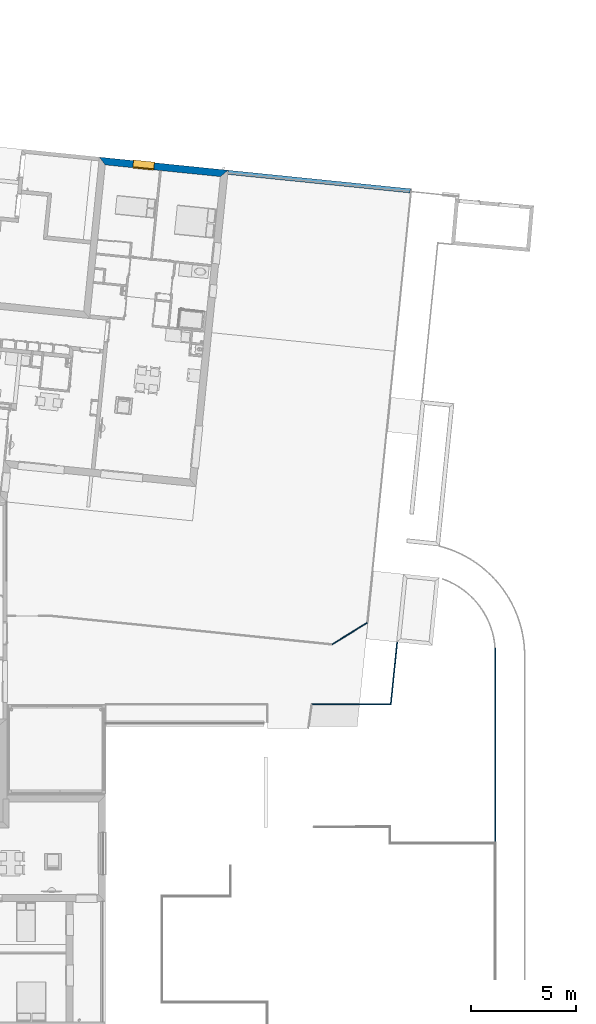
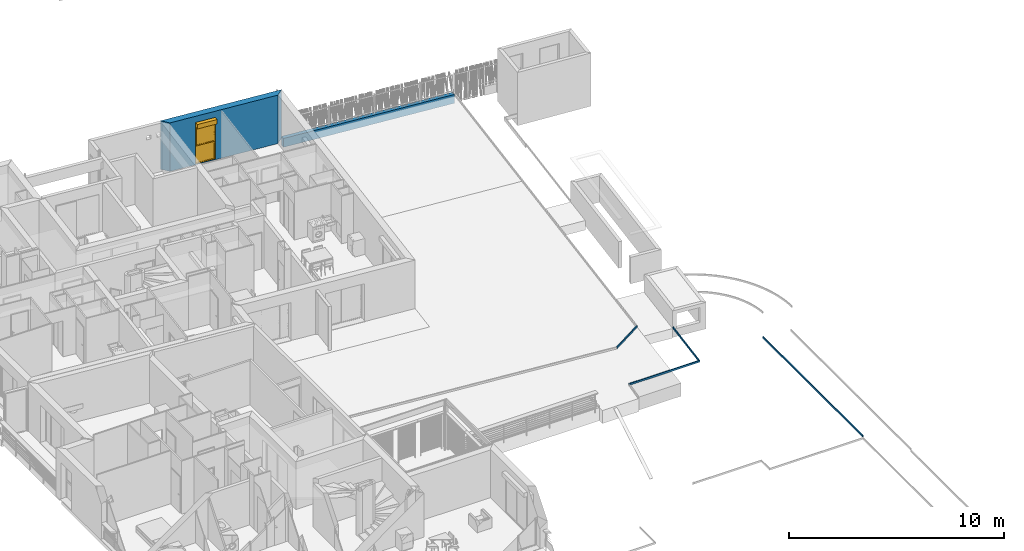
# One storey, part 81 of 171: 6 walls, 1 window, 1 opening.
"""IFC2X3 building model written with IfcOpenShell, lengths in millimetres."""

import ifcopenshell
import ifcopenshell.guid

model = None  # the IFC model being written
_history = None  # IfcOwnerHistory: only IFC2X3 demands one
_inside = {}  # id of a spatial element -> (the spatial element, [elements in it])
_under = {}  # id of a project, library or spatial element -> (it, [spatial elements below it])
_declared = {}  # id of a project -> (the project, [libraries it declares])
_typed = {}  # id of a type object -> (the type object, [elements of that type])
_made_of = {}  # id of a material, layer set ... -> (it, [elements and type objects made of it])


def new_model(schema):
    """Start an empty IFC model of exactly this schema.

    Asked for "IFC4X3", IfcOpenShell would pick the latest addendum, in which some entities
    have other attributes; the version numbers below select the first issue.
    IFC2X3 requires an IfcOwnerHistory on every rooted entity: one is made here for all.
    """
    global model, _history
    if schema == "IFC4X3":
        model = ifcopenshell.file(schema_version=(4, 3, 0, 0))
    else:
        model = ifcopenshell.file(schema=schema)
    _inside.clear()
    _under.clear()
    _declared.clear()
    _typed.clear()
    _made_of.clear()
    _history = None
    if model.schema == "IFC2X3":
        org = make("IfcOrganization", Name="unknown")
        user = make(
            "IfcPersonAndOrganization",
            ThePerson=make("IfcPerson", FamilyName="unknown"),
            TheOrganization=org,
        )
        app = make(
            "IfcApplication",
            ApplicationDeveloper=org,
            Version="unknown",
            ApplicationFullName="unknown",
            ApplicationIdentifier="unknown",
        )
        _history = make(
            "IfcOwnerHistory",
            OwningUser=user,
            OwningApplication=app,
            ChangeAction="ADDED",
            CreationDate=0,
        )
    return model


def make(cls, **values):
    """One entity of the class cls with the attributes given. An attribute that is None is left unset."""
    return model.create_entity(
        cls, **{name: value for name, value in values.items() if value is not None}
    )


def entity(cls, *values):
    """Any entity or typed value of the class cls, its attributes in the order of the schema. None: left unset."""
    e = model.create_entity(cls)
    for i, value in enumerate(values):
        if value is not None:
            e[i] = value
    return e


def rooted(cls, **values):
    """An entity with a GlobalId (a new one), such as an element, a storey or a relation."""
    return make(cls, GlobalId=ifcopenshell.guid.new(), OwnerHistory=_history, **values)


def si_unit(unit_type, name, prefix=None):
    """IfcSIUnit, for example si_unit("LENGTHUNIT", "METRE", prefix="MILLI")."""
    return make("IfcSIUnit", UnitType=unit_type, Prefix=prefix, Name=name)


def converted_unit(unit_type, name, factor, base, dimensions=None, offset=None):
    """IfcConversionBasedUnit, such as the inch: factor (a typed value) times the base unit."""
    return make(
        "IfcConversionBasedUnit"
        if offset is None
        else "IfcConversionBasedUnitWithOffset",
        ConversionOffset=offset,
        Dimensions=None
        if dimensions is None
        else entity("IfcDimensionalExponents", *dimensions),
        UnitType=unit_type,
        Name=name,
        ConversionFactor=make(
            "IfcMeasureWithUnit", ValueComponent=factor, UnitComponent=base
        ),
    )


def derived_unit(unit_type, elements):
    """IfcDerivedUnit: a product of units, each with its exponent."""
    return make(
        "IfcDerivedUnit",
        Elements=[
            make("IfcDerivedUnitElement", Unit=unit, Exponent=power)
            for unit, power in elements
        ],
        UnitType=unit_type,
    )


def money_unit(currency):
    """IfcMonetaryUnit."""
    return make("IfcMonetaryUnit", Currency=currency)


def assignment(units):
    """IfcUnitAssignment: the units of a project."""
    return None if units is None else make("IfcUnitAssignment", Units=units)


def point(xyz):
    """IfcCartesianPoint."""
    return None if xyz is None else make("IfcCartesianPoint", Coordinates=xyz)


def direction(xyz):
    """IfcDirection."""
    return None if xyz is None else make("IfcDirection", DirectionRatios=xyz)


def frame(location, z_axis=None, x_axis=None):
    """IfcAxis2Placement3D, a coordinate frame: its origin and axes. An axis left out is left unset."""
    return make(
        "IfcAxis2Placement3D",
        Location=point(location),
        Axis=direction(z_axis),
        RefDirection=direction(x_axis),
    )


def origin_with_axes():
    """The frame at (0, 0, 0) with the z axis (0, 0, 1) and the x axis (1, 0, 0) written out."""
    return frame((0.0, 0.0, 0.0), z_axis=(0.0, 0.0, 1.0), x_axis=(1.0, 0.0, 0.0))


def place(relative_to, where):
    """IfcLocalPlacement: puts the frame where relative to a parent placement (None: the world)."""
    return make(
        "IfcLocalPlacement", PlacementRelTo=relative_to, RelativePlacement=where
    )


def context(
    kind, dimensions, precision=None, world=None, true_north=None, identifier=None
):
    """IfcGeometricRepresentationContext, for example the 3D "Model" context."""
    return make(
        "IfcGeometricRepresentationContext",
        ContextIdentifier=identifier,
        ContextType=kind,
        CoordinateSpaceDimension=dimensions,
        Precision=precision,
        WorldCoordinateSystem=world,
        TrueNorth=true_north,
    )


def subcontext(parent, identifier, kind, view, scale=None):
    """IfcGeometricRepresentationSubContext, for example "Body" below "Model"."""
    return make(
        "IfcGeometricRepresentationSubContext",
        ContextIdentifier=identifier,
        ContextType=kind,
        ParentContext=parent,
        TargetScale=scale,
        TargetView=view,
    )


def project(units=None, contexts=None):
    """IfcProject with its units and contexts."""
    return rooted(
        "IfcProject",
        Name="project",
        RepresentationContexts=contexts,
        UnitsInContext=assignment(units),
    )


def spatial(cls, under=None, at=None, **own):
    """A site, building, storey or space (cls), placed at a placement, below another one or the project."""
    s = rooted(cls, ObjectPlacement=at, **own)
    if under is not None:
        _under.setdefault(under.id(), (under, []))[1].append(s)
    return s


def polyline(points):
    """IfcPolyline through the points."""
    return make("IfcPolyline", Points=[point(p) for p in points])


def outline(outer, holes=None, kind="AREA"):
    """IfcArbitraryClosedProfileDef: a profile drawn as a closed curve; with holes, ...WithVoids."""
    if holes is None:
        return make("IfcArbitraryClosedProfileDef", ProfileType=kind, OuterCurve=outer)
    return make(
        "IfcArbitraryProfileDefWithVoids",
        ProfileType=kind,
        OuterCurve=outer,
        InnerCurves=holes,
    )


def extrude(swept, where, along, depth):
    """IfcExtrudedAreaSolid: the profile swept, set in the frame where, extruded along a direction by depth."""
    return make(
        "IfcExtrudedAreaSolid",
        SweptArea=swept,
        Position=where,
        ExtrudedDirection=direction(along),
        Depth=depth,
    )


def faces_of(points, faces, orient=None, outer=None):
    """IfcFace entities. A face is a list of loops; a loop is a list of indices into points, from 0.

    orient and outer hold one flag for each loop. By default every Orientation is true, the
    first loop of a face is its IfcFaceOuterBound and the others are IfcFaceBound.
    """
    made = []
    for i, loops in enumerate(faces):
        bounds = []
        for j, loop in enumerate(loops):
            is_outer = j == 0 if outer is None else outer[i][j]
            bounds.append(
                make(
                    "IfcFaceOuterBound" if is_outer else "IfcFaceBound",
                    Bound=make("IfcPolyLoop", Polygon=[points[k] for k in loop]),
                    Orientation=True if orient is None else orient[i][j],
                )
            )
        made.append(make("IfcFace", Bounds=bounds))
    return made


def open_shell(faces, orient=None, outer=None):
    """The faces of one IfcOpenShell. surface_model builds it on its shared points."""
    return ("IfcOpenShell", faces, orient, outer)


def faceted_brep(points, faces, orient=None, outer=None, voids=None):
    """IfcFacetedBrep: a solid bounded by flat faces; with voids (closed shells), ...WithVoids."""
    shared = [point(p) for p in points]
    hull = make("IfcClosedShell", CfsFaces=faces_of(shared, faces, orient, outer))
    if voids is None:
        return make("IfcFacetedBrep", Outer=hull)
    return make(
        "IfcFacetedBrepWithVoids",
        Outer=hull,
        Voids=[
            make(cls, CfsFaces=faces_of(shared, fs, o, b)) for cls, fs, o, b in voids
        ],
    )


def surface_model(cls, points, shells):
    """IfcFaceBasedSurfaceModel or IfcShellBasedSurfaceModel (cls): surfaces that need not close."""
    shared = [point(p) for p in points]
    made = [make(c, CfsFaces=faces_of(shared, fs, o, b)) for c, fs, o, b in shells]
    if cls == "IfcFaceBasedSurfaceModel":
        return make(cls, FbsmFaces=made)
    return make(cls, SbsmBoundary=made)


def shape(context_of_items, identifier, shape_type, items):
    """IfcShapeRepresentation: the items that make up one representation, for example the "Body"."""
    return make(
        "IfcShapeRepresentation",
        ContextOfItems=context_of_items,
        RepresentationIdentifier=identifier,
        RepresentationType=shape_type,
        Items=items,
    )


def source(mapping_origin, context_of_items, identifier, shape_type, items):
    """IfcRepresentationMap: a shape defined once, which mapped items show again and again."""
    return make(
        "IfcRepresentationMap",
        MappingOrigin=mapping_origin,
        MappedRepresentation=shape(context_of_items, identifier, shape_type, items),
    )


def transform(
    local_origin,
    x_axis=None,
    y_axis=None,
    z_axis=None,
    scale=None,
    scale2=None,
    scale3=None,
    uniform=True,
):
    """IfcCartesianTransformationOperator3D, or its non-uniform kind. x_axis, y_axis, z_axis: its Axis1, 2, 3."""
    if uniform:
        return make(
            "IfcCartesianTransformationOperator3D",
            Axis1=direction(x_axis),
            Axis2=direction(y_axis),
            LocalOrigin=point(local_origin),
            Scale=scale,
            Axis3=direction(z_axis),
        )
    return make(
        "IfcCartesianTransformationOperator3DnonUniform",
        Axis1=direction(x_axis),
        Axis2=direction(y_axis),
        LocalOrigin=point(local_origin),
        Scale=scale,
        Axis3=direction(z_axis),
        Scale2=scale2,
        Scale3=scale3,
    )


def mapped(mapping_source, mapping_target):
    """IfcMappedItem: shows the shape of a source again, moved by a transform."""
    return make(
        "IfcMappedItem", MappingSource=mapping_source, MappingTarget=mapping_target
    )


def material(Name=None, Category=None):
    """IfcMaterial."""
    return make("IfcMaterial", Name=Name, Category=Category)


def layer(
    of_material, thickness, ventilated=None, Name=None, Category=None, Priority=None
):
    """IfcMaterialLayer: one layer of a wall or slab, of a material (None: an air gap)."""
    return make(
        "IfcMaterialLayer",
        Material=of_material,
        LayerThickness=thickness,
        IsVentilated=ventilated,
        Name=Name,
        Category=Category,
        Priority=Priority,
    )


def layer_set(layers, Name=None):
    """IfcMaterialLayerSet."""
    return make("IfcMaterialLayerSet", MaterialLayers=layers, LayerSetName=Name)


def layer_usage(for_layer_set, set_direction, sense, offset, extent=None):
    """IfcMaterialLayerSetUsage: how a layer set lies in its element."""
    return make(
        "IfcMaterialLayerSetUsage",
        ForLayerSet=for_layer_set,
        LayerSetDirection=set_direction,
        DirectionSense=sense,
        OffsetFromReferenceLine=offset,
        ReferenceExtent=extent,
    )


def made_of(thing, what):
    """Note that an element or type object is made of a material, layer set ...; save() writes the relation."""
    if what is not None:
        _made_of.setdefault(what.id(), (what, []))[1].append(thing)
    return thing


def type_object(cls, material=None, **own):
    """A type object (cls), such as IfcWallType, which elements share."""
    return made_of(rooted(cls, **own), material)


def element(
    cls,
    number,
    at=None,
    inside=None,
    cuts=None,
    type_object=None,
    material=None,
    context=None,
    identifier="Body",
    shape_type=None,
    held_by="IfcProductDefinitionShape",
    body=None,
    shapes=None,
    **own,
):
    """One element of the class cls, such as IfcWall. Its Tag is "e" and its number.

    at: its placement. inside: the storey or other place that contains it. cuts: it is an
    opening in that element (IfcRelVoidsElement). A single representation is given by context,
    identifier, shape_type and body (its items); several are given by shapes. held_by: the class
    of the entity that holds the representations. save() writes the other relations.
    """
    e = rooted(cls, Tag="e%d" % number, ObjectPlacement=at, **own)
    if body is not None:
        shapes = [shape(context, identifier, shape_type, body)]
    if shapes is not None:
        e.Representation = make(held_by, Representations=shapes)
    if inside is not None:
        _inside.setdefault(inside.id(), (inside, []))[1].append(e)
    if cuts is not None:
        rooted(
            "IfcRelVoidsElement", RelatingBuildingElement=cuts, RelatedOpeningElement=e
        )
    if type_object is not None:
        _typed.setdefault(type_object.id(), (type_object, []))[1].append(e)
    return made_of(e, material)


def fill(opening, filler):
    """IfcRelFillsElement: the door or window that sits in an opening."""
    return rooted(
        "IfcRelFillsElement",
        RelatingOpeningElement=opening,
        RelatedBuildingElement=filler,
    )


def aggregate(whole, parts):
    """IfcRelAggregates: a whole, such as a stair, and the parts it consists of."""
    return rooted("IfcRelAggregates", RelatingObject=whole, RelatedObjects=parts)


def save(model, path):
    """Write the relations noted so far, then the file.

    IfcRelAggregates (storeys below a building ...), IfcRelContainedInSpatialStructure (elements
    in a storey), IfcRelDefinesByType, IfcRelAssociatesMaterial and IfcRelDeclares: one each for
    every whole, place, type object, material and project.
    """
    for whole, parts in _under.values():
        aggregate(whole, parts)
    for where, things in _inside.values():
        rooted(
            "IfcRelContainedInSpatialStructure",
            RelatedElements=things,
            RelatingStructure=where,
        )
    for kind, things in _typed.values():
        rooted("IfcRelDefinesByType", RelatedObjects=things, RelatingType=kind)
    for what, things in _made_of.values():
        rooted("IfcRelAssociatesMaterial", RelatedObjects=things, RelatingMaterial=what)
    for by, libraries in _declared.values():
        rooted("IfcRelDeclares", RelatingContext=by, RelatedDefinitions=libraries)
    model.write(path)


model = new_model("IFC2X3")

# Units and contexts
model_context = context("Model", 3, precision=0.01, world=origin_with_axes(), true_north=direction((0.0, 1.0)))
body_context = subcontext(model_context, "Body", "Model", "MODEL_VIEW")
ifc_project = project(units=[si_unit("LENGTHUNIT", "METRE", prefix="MILLI"), si_unit("AREAUNIT", "SQUARE_METRE"), si_unit("VOLUMEUNIT", "CUBIC_METRE"), converted_unit("PLANEANGLEUNIT", "DEGREE", entity("IfcPlaneAngleMeasure", 0.0174532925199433), si_unit("PLANEANGLEUNIT", "RADIAN"), dimensions=[0, 0, 0, 0, 0, 0, 0]), money_unit("USD"), converted_unit("TIMEUNIT", "Year", entity("IfcTimeMeasure", 31557600.0), si_unit("TIMEUNIT", "SECOND"), dimensions=[0, 0, 1, 0, 0, 0, 0]), si_unit("MASSUNIT", "GRAM", prefix="KILO"), si_unit("THERMODYNAMICTEMPERATUREUNIT", "DEGREE_CELSIUS"), si_unit("LUMINOUSINTENSITYUNIT", "LUMEN"), si_unit("ENERGYUNIT", "JOULE", prefix="MEGA"), derived_unit("THERMALCONDUCTANCEUNIT", [(si_unit("POWERUNIT", "WATT"), 1), (si_unit("LENGTHUNIT", "METRE"), -1), (si_unit("THERMODYNAMICTEMPERATUREUNIT", "KELVIN"), -1)]), derived_unit("SPECIFICHEATCAPACITYUNIT", [(si_unit("ENERGYUNIT", "JOULE"), 1), (si_unit("MASSUNIT", "GRAM", prefix="KILO"), -1), (si_unit("THERMODYNAMICTEMPERATUREUNIT", "KELVIN"), -1)]), derived_unit("MASSDENSITYUNIT", [(si_unit("MASSUNIT", "GRAM", prefix="KILO"), 1), (si_unit("VOLUMEUNIT", "CUBIC_METRE"), -1)])], contexts=[model_context])

# Site, building, storey
site_placement = place(None, origin_with_axes())
site = spatial("IfcSite", under=ifc_project, at=site_placement, Name="Site", CompositionType="ELEMENT")
building_placement = place(site_placement, origin_with_axes())
building = spatial("IfcBuilding", under=site, at=building_placement, Name="Bâtiment", CompositionType="ELEMENT")
storey_placement = place(building_placement, frame((0.0, 0.0, 3000.0), z_axis=(0.0, 0.0, 1.0), x_axis=(1.0, 0.0, 0.0)))
storey = spatial("IfcBuildingStorey", under=building, at=storey_placement, Name="rdc", CompositionType="ELEMENT", Elevation=3000.0)

# Walls
ifc_material_1 = material(Name="Hachure solide 268963992")
ifc_layer_1 = layer(ifc_material_1, 50.0, ventilated="UNKNOWN")
ifc_layer_set_1 = layer_set([ifc_layer_1], Name="Cloison 50")
ifc_layer_usage_1 = layer_usage(ifc_layer_set_1, "AXIS2", "NEGATIVE", 50.0)
wall_type_1 = type_object("IfcWallType", Name="Cloison 50 50", PredefinedType="NOTDEFINED")
wall_1_placement = place(storey_placement, frame((2245134.025982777, -628810.6020336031, 0.0), z_axis=(0.0, 0.0, 1.0), x_axis=(0.851293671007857, 0.5246895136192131, 0.0)))
element("IfcWallStandardCase", 1, at=wall_1_placement, inside=storey, type_object=wall_type_1, material=ifc_layer_usage_1, Name="Mur-151", context=body_context, shape_type="SweptSolid", body=[
    extrude(outline(polyline([(-1.13686837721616e-10, 0.0), (1983.698173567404, 0.0), (1959.013799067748, 49.99999999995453), (16.94819225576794, 49.99999999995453), (-1.13686837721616e-10, 0.0)])), origin_with_axes(), (0.0, 0.0, 1.0), 100.0),
])
ifc_layer_usage_2 = layer_usage(ifc_layer_set_1, "AXIS2", "NEGATIVE", 0.0)
wall_2_placement = place(storey_placement, frame((2252858.967028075, -638224.8035284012, -2000.0), z_axis=(0.0, 0.0, 1.0), x_axis=(-0.001166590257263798, 0.9999993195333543, 0.0)))
element("IfcWallStandardCase", 2, at=wall_2_placement, inside=storey, type_object=wall_type_1, material=ifc_layer_usage_2, Name="Mur-162", context=body_context, shape_type="SweptSolid", body=[
    extrude(outline(polyline([(0.0, -50.00000000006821), (9269.444917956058, -49.99999999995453), (9269.444917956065, -1.13686837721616e-10), (0.0, 0.0), (0.0, -50.00000000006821)])), origin_with_axes(), (0.0, 0.0, 1.0), 100.0),
])
ifc_layer_usage_3 = layer_usage(ifc_layer_set_1, "AXIS2", "POSITIVE", 0.0)
wall_3_placement = place(storey_placement, frame((2248194.197924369, -628673.1309445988, 0.0), z_axis=(0.0, 0.0, 1.0), x_axis=(-0.1017601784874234, -0.9948089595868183, 0.0)))
element("IfcWallStandardCase", 3, at=wall_3_placement, inside=storey, type_object=wall_type_1, material=ifc_layer_usage_3, Name="Mur-164", context=body_context, shape_type="SweptSolid", body=[
    extrude(outline(polyline([(0.0, 0.0), (2950.168461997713, 1.13686837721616e-10), (2995.315718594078, 50.00000000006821), (-0.03301811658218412, 50.00000000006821), (0.0, 0.0)])), origin_with_axes(), (0.0, 0.0, 1.0), 100.0),
])
ifc_layer_usage_4 = layer_usage(ifc_layer_set_1, "AXIS2", "NEGATIVE", 0.0)
wall_4_placement = place(storey_placement, frame((2247888.873706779, -631657.9848604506, 0.0), z_axis=(0.0, 0.0, 1.0), x_axis=(-0.9999999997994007, 2.002994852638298e-05, 0.0)))
element("IfcWallStandardCase", 4, at=wall_4_placement, inside=storey, type_object=wall_type_1, material=ifc_layer_usage_4, Name="Mur-165", context=body_context, shape_type="SweptSolid", body=[
    extrude(outline(polyline([(-5.113546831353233, -50.00000000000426), (3760.140435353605, -50.00000000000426), (3716.600376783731, 0.0), (-50.26080342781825, 0.0), (-5.113546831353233, -50.00000000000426)])), origin_with_axes(), (0.0, 0.0, 1.0), 100.0),
])

# Wall, opening, window
ifc_material_2 = material(Name="Parpaing 312445824")
ifc_layer_2 = layer(ifc_material_2, 180.0, ventilated="UNKNOWN")
ifc_material_3 = material(Name="Isolant styromousse 301821074")
ifc_layer_3 = layer(ifc_material_3, 160.0, ventilated="UNKNOWN")
ifc_layer_set_2 = layer_set([ifc_layer_2, ifc_layer_3], Name="isol int 18+16 0018356637")
ifc_layer_usage_5 = layer_usage(ifc_layer_set_2, "AXIS2", "POSITIVE", 0.0)
wall_type_2 = type_object("IfcWallType", Name="isol int 18+16 0018356637 340", PredefinedType="NOTDEFINED")
wall_5_placement = place(storey_placement, frame((2240182.946874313, -606236.1516955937, 0.0), z_axis=(0.0, 0.0, 1.0), x_axis=(-0.9948759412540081, 0.1011032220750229, 0.0)))
wall_5 = element("IfcWallStandardCase", 5, at=wall_5_placement, inside=storey, type_object=wall_type_2, material=ifc_layer_usage_5, Name="Mur-142", context=body_context, shape_type="SweptSolid", body=[
    extrude(outline(polyline([(1.13686837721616e-10, 0.0), (6161.908783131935, 0.0), (5841.81964350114, 340.0000000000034), (339.9999999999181, 339.9999999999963), (1.13686837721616e-10, 0.0)])), origin_with_axes(), (0.0, 0.0, 1.0), 2750.0),
])
opening_placement = place(wall_5_placement, frame((4027.21093098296, 0.0, 49.99999999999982), z_axis=(0.0, 0.0, 1.0), x_axis=(1.0, 0.0, 0.0)))
opening = element("IfcOpeningElement", 6, at=opening_placement, cuts=wall_5, Name="Fen-133", context=body_context, shape_type="Brep", body=[
    faceted_brep([(500.0, 279.999999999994, 2100.0), (-500.0, 279.999999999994, 2100.0), (-499.9999999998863, -588.6093473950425, 2100.0), (500.0000000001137, -588.6093473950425, 2100.0), (500.0, 279.999999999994, 2350.0), (-500.0, 279.999999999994, 2350.0), (-500.0000000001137, 289.9999999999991, 2100.0), (-500.0, 290.0000000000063, 0.0), (-499.9999999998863, -588.6093473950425, 0.0), (500.0000000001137, -588.6093473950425, 0.0), (499.9999999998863, 289.999999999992, 2100.0), (499.9999999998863, 289.999999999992, 0.0), (500.0, 530.0000000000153, 2100.0), (500.0, 530.0000000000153, 2350.0), (-500.0, 530.0000000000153, 2350.0), (-500.0, 530.0000000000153, 2100.0), (-499.9999999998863, 928.6093473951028, 2100.0), (-499.9999999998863, 928.6093473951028, 0.0), (499.9999999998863, 928.6093473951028, 0.0), (499.9999999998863, 928.6093473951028, 2100.0)], [[[0, 1, 2, 3]], [[1, 0, 4, 5]], [[1, 6, 7, 8, 2]], [[2, 8, 9, 3]], [[10, 0, 3, 9, 11]], [[0, 10, 12, 13, 4]], [[14, 5, 4, 13]], [[6, 1, 5, 14, 15]], [[6, 15, 16, 17, 7]], [[11, 9, 8, 7, 17, 18]], [[12, 10, 11, 18, 19]], [[12, 15, 14, 13]], [[15, 12, 19, 16]], [[19, 18, 17, 16]]]),
])
window_style = type_object("IfcWindowStyle", Name="Fenêtre 27", ConstructionType="NOTDEFINED", OperationType="DOUBLE_PANEL_HORIZONTAL", ParameterTakesPrecedence=False, Sizeable=False)
shared_shape = source(origin_with_axes(), body_context, "Body", "SurfaceModel", [
    surface_model("IfcShellBasedSurfaceModel", [(-500.0, -51.00000000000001, 40.00000000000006), (500.0, -51.00000000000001, 40.0), (500.0, -51.00000000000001, 50.0), (-500.0, -51.00000000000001, 50.00000000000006), (-530.0, -369.9999999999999, 28.96551724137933), (530.0, -369.9999999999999, 28.96551724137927), (530.0, -339.9999999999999, 30.00324289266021), (500.0, -339.9999999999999, 30.00324289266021), (-500.0, -339.9999999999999, 30.00324289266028), (-530.0, -339.9999999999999, 30.00324289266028), (-530.0, -369.9999999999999, 8.96551724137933), (530.0, -369.9999999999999, 8.965517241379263), (-530.0, -359.9999999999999, 18.96551724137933), (530.0, -359.9999999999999, 18.96551724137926)], [open_shell([[[0, 1, 2, 3]], [[4, 5, 6, 7, 1, 0, 8, 9]], [[10, 11, 5, 4]], [[12, 13, 11, 10]]])]),
    faceted_brep([(500.0, -59.99999999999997, 2350.0), (500.0, 190.0, 2350.0), (497.0, 190.0, 2350.0), (497.0, -59.99999999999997, 2350.0), (500.0, -59.99999999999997, 2100.0), (500.0, 190.0, 2100.0), (497.0, 190.0, 2100.0), (497.0, -59.99999999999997, 2100.0)], [[[0, 1, 2, 3]], [[0, 4, 5, 1]], [[1, 5, 6, 2]], [[3, 2, 6, 7]], [[4, 0, 3, 7]], [[5, 4, 7, 6]]]),
    faceted_brep([(-497.0, -59.99999999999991, 2350.0), (-497.0, 190.0000000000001, 2350.0), (-500.0, 190.0000000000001, 2350.0), (-500.0, -59.99999999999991, 2350.0), (-497.0, -59.99999999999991, 2100.0), (-497.0, 190.0000000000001, 2100.0), (-500.0, 190.0000000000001, 2100.0), (-500.0, -59.99999999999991, 2100.0)], [[[0, 1, 2, 3]], [[0, 4, 5, 1]], [[1, 5, 6, 2]], [[3, 2, 6, 7]], [[4, 0, 3, 7]], [[5, 4, 7, 6]]]),
    faceted_brep([(497.0, -60.0, 2100.0), (497.0, -60.0, 2350.0), (-497.0, -59.99999999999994, 2350.0), (-497.0, -59.99999999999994, 2100.0), (497.0, -56.99999999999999, 2100.0), (497.0, -56.99999999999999, 2347.0), (497.0, 187.0, 2347.0), (497.0, 187.0, 2103.0), (497.0, -37.99999999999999, 2103.0), (497.0, -37.99999999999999, 2100.0), (497.0, 190.0, 2100.0), (497.0, 190.0, 2350.0), (-497.0, 190.0000000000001, 2350.0), (-497.0, 190.0000000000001, 2100.0), (-497.0, -37.99999999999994, 2100.0), (-497.0, -37.99999999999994, 2103.0), (-497.0, 187.0000000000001, 2103.0), (-497.0, 187.0000000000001, 2347.0), (-497.0, -56.99999999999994, 2347.0), (-497.0, -56.99999999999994, 2100.0)], [[[0, 1, 2, 3]], [[0, 4, 5, 6, 7, 8, 9, 10, 11, 1]], [[1, 11, 12, 2]], [[3, 2, 12, 13, 14, 15, 16, 17, 18, 19]], [[4, 0, 3, 19]], [[5, 4, 19, 18]], [[6, 5, 18, 17]], [[7, 6, 17, 16]], [[8, 7, 16, 15]], [[9, 8, 15, 14]], [[10, 9, 14, 13]], [[11, 10, 13, 12]]]),
    faceted_brep([(494.0, -40.37442957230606, 2206.419644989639), (494.0, -35.54711042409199, 2188.403844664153), (494.0, -27.66471820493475, 2171.5), (494.0, -16.9667554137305, 2156.22172576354), (494.0, -3.778274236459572, 2143.03324458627), (494.0, 11.50000000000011, 2132.335281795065), (494.0, 28.40384466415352, 2124.452889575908), (494.0, 46.4196449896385, 2119.625570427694), (494.0, 65.00000000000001, 2118.0), (494.0, 83.58035501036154, 2119.625570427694), (494.0, 101.5961553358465, 2124.452889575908), (494.0, 118.4999999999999, 2132.335281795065), (494.0, 133.7782742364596, 2143.03324458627), (494.0, 146.9667554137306, 2156.22172576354), (494.0, 157.6647182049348, 2171.5), (494.0, 165.5471104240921, 2188.403844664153), (494.0, 170.3744295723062, 2206.419644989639), (494.0, 171.9999999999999, 2225.0), (494.0, 170.3744295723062, 2243.580355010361), (494.0, 165.5471104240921, 2261.596155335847), (494.0, 157.6647182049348, 2278.5), (494.0, 146.9667554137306, 2293.77827423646), (494.0, 133.7782742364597, 2306.966755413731), (494.0, 118.5, 2317.664718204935), (494.0, 101.5961553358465, 2325.547110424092), (494.0, 83.58035501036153, 2330.374429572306), (494.0, 64.99999999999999, 2332.0), (494.0, 46.41964498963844, 2330.374429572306), (494.0, 28.40384466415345, 2325.547110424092), (494.0, 11.5, 2317.664718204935), (494.0, -3.778274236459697, 2306.966755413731), (494.0, -16.96675541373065, 2293.77827423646), (494.0, -27.66471820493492, 2278.5), (494.0, -35.54711042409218, 2261.596155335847), (494.0, -40.37442957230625, 2243.580355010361), (494.0, -41.99999999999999, 2225.0), (-494.0, -40.374429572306, 2206.419644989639), (-494.0, -35.54711042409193, 2188.403844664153), (-494.0, -27.6647182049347, 2171.5), (-494.0, -16.96675541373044, 2156.22172576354), (-494.0, -3.778274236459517, 2143.03324458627), (-494.0, 11.50000000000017, 2132.335281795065), (-494.0, 28.40384466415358, 2124.452889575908), (-494.0, 46.41964498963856, 2119.625570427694), (-494.0, 65.00000000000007, 2118.0), (-494.0, 83.5803550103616, 2119.625570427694), (-494.0, 101.5961553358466, 2124.452889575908), (-494.0, 118.5, 2132.335281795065), (-494.0, 133.7782742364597, 2143.03324458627), (-494.0, 146.9667554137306, 2156.22172576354), (-494.0, 157.6647182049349, 2171.5), (-494.0, 165.5471104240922, 2188.403844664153), (-494.0, 170.3744295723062, 2206.419644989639), (-494.0, 172.0, 2225.0), (-494.0, 170.3744295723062, 2243.580355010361), (-494.0, 165.5471104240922, 2261.596155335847), (-494.0, 157.6647182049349, 2278.5), (-494.0, 146.9667554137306, 2293.77827423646), (-494.0, 133.7782742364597, 2306.966755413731), (-494.0, 118.5, 2317.664718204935), (-494.0, 101.5961553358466, 2325.547110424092), (-494.0, 83.58035501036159, 2330.374429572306), (-494.0, 65.00000000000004, 2332.0), (-494.0, 46.41964498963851, 2330.374429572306), (-494.0, 28.40384466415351, 2325.547110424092), (-494.0, 11.50000000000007, 2317.664718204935), (-494.0, -3.778274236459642, 2306.966755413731), (-494.0, -16.96675541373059, 2293.77827423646), (-494.0, -27.66471820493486, 2278.5), (-494.0, -35.54711042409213, 2261.596155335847), (-494.0, -40.37442957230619, 2243.580355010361), (-494.0, -41.99999999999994, 2225.0)], [[[0, 1, 2, 3, 4, 5, 6, 7, 8, 9, 10, 11, 12, 13, 14, 15, 16, 17, 18, 19, 20, 21, 22, 23, 24, 25, 26, 27, 28, 29, 30, 31, 32, 33, 34, 35]], [[1, 0, 36, 37]], [[2, 1, 37, 38]], [[3, 2, 38, 39]], [[4, 3, 39, 40]], [[5, 4, 40, 41]], [[6, 5, 41, 42]], [[7, 6, 42, 43]], [[8, 7, 43, 44]], [[9, 8, 44, 45]], [[10, 9, 45, 46]], [[11, 10, 46, 47]], [[12, 11, 47, 48]], [[13, 12, 48, 49]], [[14, 13, 49, 50]], [[15, 14, 50, 51]], [[16, 15, 51, 52]], [[17, 16, 52, 53]], [[18, 17, 53, 54]], [[19, 18, 54, 55]], [[20, 19, 55, 56]], [[21, 20, 56, 57]], [[22, 21, 57, 58]], [[23, 22, 58, 59]], [[24, 23, 59, 60]], [[25, 24, 60, 61]], [[26, 25, 61, 62]], [[27, 26, 62, 63]], [[28, 27, 63, 64]], [[29, 28, 64, 65]], [[30, 29, 65, 66]], [[31, 30, 66, 67]], [[32, 31, 67, 68]], [[33, 32, 68, 69]], [[34, 33, 69, 70]], [[35, 34, 70, 71]], [[0, 35, 71, 36]], [[36, 71, 70, 69, 68, 67, 66, 65, 64, 63, 62, 61, 60, 59, 58, 57, 56, 55, 54, 53, 52, 51, 50, 49, 48, 47, 46, 45, 44, 43, 42, 41, 40, 39, 38, 37]]]),
    faceted_brep([(-500.0, -34.99999999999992, 30.0), (-500.0, -59.99999999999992, 30.0), (-500.0, -59.99999999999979, 2100.0), (-500.0, -34.99999999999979, 2100.0), (-475.0, -34.99999999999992, 30.0), (-475.0, -37.99999999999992, 30.0), (-497.0, -37.99999999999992, 30.0), (-497.0, -56.99999999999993, 30.0), (-475.0, -56.99999999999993, 30.0), (-475.0, -59.99999999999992, 30.0), (-475.0, -59.99999999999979, 2100.0), (-475.0, -56.99999999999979, 2100.0), (-497.0, -56.99999999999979, 2100.0), (-497.0, -37.99999999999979, 2100.0), (-475.0, -37.99999999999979, 2100.0), (-475.0, -34.99999999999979, 2100.0)], [[[0, 1, 2, 3]], [[0, 4, 5, 6, 7, 8, 9, 1]], [[1, 9, 10, 2]], [[3, 2, 10, 11, 12, 13, 14, 15]], [[4, 0, 3, 15]], [[5, 4, 15, 14]], [[6, 5, 14, 13]], [[7, 6, 13, 12]], [[8, 7, 12, 11]], [[9, 8, 11, 10]]]),
    faceted_brep([(500.0, -34.99999999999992, 30.0), (500.0, -34.99999999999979, 2100.0), (500.0, -59.99999999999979, 2100.0), (500.0, -59.99999999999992, 30.0), (475.0, -34.99999999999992, 30.0), (475.0, -34.99999999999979, 2100.0), (475.0, -37.99999999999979, 2100.0), (497.0, -37.99999999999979, 2100.0), (497.0, -56.99999999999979, 2100.0), (475.0, -56.99999999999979, 2100.0), (475.0, -59.99999999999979, 2100.0), (475.0, -59.99999999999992, 30.0), (475.0, -56.99999999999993, 30.0), (497.0, -56.99999999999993, 30.0), (497.0, -37.99999999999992, 30.0), (475.0, -37.99999999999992, 30.0)], [[[0, 1, 2, 3]], [[4, 5, 1, 0]], [[1, 5, 6, 7, 8, 9, 10, 2]], [[3, 2, 10, 11]], [[0, 3, 11, 12, 13, 14, 15, 4]], [[15, 6, 5, 4]], [[14, 7, 6, 15]], [[13, 8, 7, 14]], [[12, 9, 8, 13]], [[11, 10, 9, 12]]]),
    faceted_brep([(-497.0, -46.66666666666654, 2225.0), (497.0, -46.6666666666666, 2225.0), (497.0, -46.6666666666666, 2216.666666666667), (-497.0, -46.66666666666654, 2216.666666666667), (-497.0, -51.66666666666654, 2225.0), (497.0, -51.6666666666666, 2225.0), (497.0, -51.6666666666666, 2216.666666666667), (497.0, -49.99999999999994, 2200.0), (497.0, -44.99999999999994, 2200.0), (-497.0, -44.99999999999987, 2200.0), (-497.0, -49.99999999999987, 2200.0), (-497.0, -51.66666666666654, 2216.666666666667)], [[[0, 1, 2, 3]], [[1, 0, 4, 5]], [[1, 5, 6, 7, 8, 2]], [[2, 8, 9, 3]], [[4, 0, 3, 9, 10, 11]], [[6, 5, 4, 11]], [[7, 6, 11, 10]], [[8, 7, 10, 9]]]),
    faceted_brep([(497.0, -44.99999999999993, 2200.0), (497.0, -46.6666666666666, 2183.333333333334), (-497.0, -46.66666666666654, 2183.333333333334), (-497.0, -44.99999999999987, 2200.0), (497.0, -49.99999999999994, 2200.0), (497.0, -51.6666666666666, 2183.333333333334), (497.0, -51.6666666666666, 2166.666666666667), (497.0, -49.99999999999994, 2150.000000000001), (497.0, -44.99999999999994, 2150.000000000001), (497.0, -46.6666666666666, 2166.666666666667), (-497.0, -46.66666666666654, 2166.666666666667), (-497.0, -44.99999999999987, 2150.000000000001), (-497.0, -49.99999999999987, 2150.000000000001), (-497.0, -51.66666666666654, 2166.666666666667), (-497.0, -51.66666666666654, 2183.333333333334), (-497.0, -49.99999999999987, 2200.0)], [[[0, 1, 2, 3]], [[0, 4, 5, 6, 7, 8, 9, 1]], [[1, 9, 10, 2]], [[3, 2, 10, 11, 12, 13, 14, 15]], [[4, 0, 3, 15]], [[5, 4, 15, 14]], [[6, 5, 14, 13]], [[7, 6, 13, 12]], [[8, 7, 12, 11]], [[9, 8, 11, 10]]]),
    faceted_brep([(497.0, -44.99999999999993, 2150.000000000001), (497.0, -46.6666666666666, 2133.333333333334), (-497.0, -46.66666666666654, 2133.333333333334), (-497.0, -44.99999999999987, 2150.000000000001), (497.0, -49.99999999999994, 2150.000000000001), (497.0, -51.6666666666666, 2133.333333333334), (497.0, -51.6666666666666, 2116.666666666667), (497.0, -49.99999999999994, 2100.000000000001), (497.0, -44.99999999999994, 2100.000000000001), (497.0, -46.6666666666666, 2116.666666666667), (-497.0, -46.66666666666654, 2116.666666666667), (-497.0, -44.99999999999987, 2100.000000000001), (-497.0, -49.99999999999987, 2100.000000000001), (-497.0, -51.66666666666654, 2116.666666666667), (-497.0, -51.66666666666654, 2133.333333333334), (-497.0, -49.99999999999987, 2150.000000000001)], [[[0, 1, 2, 3]], [[0, 4, 5, 6, 7, 8, 9, 1]], [[1, 9, 10, 2]], [[3, 2, 10, 11, 12, 13, 14, 15]], [[4, 0, 3, 15]], [[5, 4, 15, 14]], [[6, 5, 14, 13]], [[7, 6, 13, 12]], [[8, 7, 12, 11]], [[9, 8, 11, 10]]]),
    faceted_brep([(475.0000000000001, 0.0, 2050.0), (475.0000000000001, -25.00000000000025, 2050.0), (450.0, -25.00000000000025, 2050.0), (450.0, -50.00000000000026, 2050.0), (500.0, -50.00000000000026, 2050.0), (500.0, 0.0, 2050.0), (475.0000000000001, 0.0, 1025.0), (475.0000000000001, -25.00000000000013, 1025.0), (450.0, -25.00000000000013, 1050.0), (450.0, -25.00000000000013, 1025.0), (450.0, -50.00000000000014, 1050.0), (450.0, -50.00000000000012, 950.0), (450.0, -50.00000000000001, 50.00000000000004), (500.0, -50.00000000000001, 50.00000000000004), (500.0, 0.0, 50.00000000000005), (450.0, 0.0, 50.00000000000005), (450.0, 0.0, 950.0), (450.0, 0.0, 1025.0)], [[[0, 1, 2, 3, 4, 5]], [[1, 0, 6, 7]], [[8, 2, 1, 7, 9]], [[2, 8, 10, 3]], [[10, 11, 12, 13, 4, 3]], [[5, 4, 13, 14]], [[6, 0, 5, 14, 15, 16, 17]], [[6, 17, 9, 7]], [[9, 17, 16, 11, 10, 8]], [[15, 12, 11, 16]], [[14, 13, 12, 15]]]),
    faceted_brep([(-450.0, -25.00000000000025, 2050.0), (-475.0000000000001, -25.00000000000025, 2050.0), (-475.0000000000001, 0.0, 2050.0), (-500.0, 0.0, 2050.0), (-500.0, -50.00000000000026, 2050.0), (-450.0, -50.00000000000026, 2050.0), (-450.0, -25.00000000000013, 1050.0), (-450.0, -25.00000000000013, 1025.0), (-475.0000000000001, -25.00000000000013, 1025.0), (-475.0000000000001, 0.0, 1025.0), (-450.0, 0.0, 1025.0), (-450.0, 0.0, 950.0), (-450.0, 0.0, 50.00000000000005), (-500.0, 0.0, 50.00000000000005), (-500.0, -50.00000000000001, 50.00000000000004), (-450.0, -50.00000000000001, 50.00000000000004), (-450.0, -50.00000000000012, 950.0), (-450.0, -50.00000000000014, 1050.0)], [[[0, 1, 2, 3, 4, 5]], [[1, 0, 6, 7, 8]], [[9, 2, 1, 8]], [[9, 10, 11, 12, 13, 3, 2]], [[13, 14, 4, 3]], [[14, 15, 16, 17, 5, 4]], [[6, 0, 5, 17]], [[7, 6, 17, 16, 11, 10]], [[10, 9, 8, 7]], [[11, 16, 15, 12]], [[12, 15, 14, 13]]]),
    faceted_brep([(450.0, -25.00000000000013, 1050.0), (-450.0, -25.00000000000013, 1050.0), (-450.0, -50.00000000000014, 1050.0), (450.0, -50.00000000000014, 1050.0), (-450.0, -25.00000000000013, 1025.0), (450.0, -25.00000000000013, 1025.0), (-450.0, 0.0, 1025.0), (-450.0, 0.0, 950.0), (-450.0, -50.00000000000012, 950.0), (450.0, -50.00000000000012, 950.0), (450.0, 0.0, 950.0), (450.0, 0.0, 1025.0)], [[[0, 1, 2, 3]], [[4, 1, 0, 5]], [[4, 6, 7, 8, 2, 1]], [[8, 9, 3, 2]], [[5, 0, 3, 9, 10, 11]], [[11, 6, 4, 5]], [[6, 11, 10, 7]], [[10, 9, 8, 7]]]),
    faceted_brep([(475.0000000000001, 0.0, 2050.0), (475.0000000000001, 0.0, 2075.0), (-475.0000000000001, 0.0, 2075.0), (-475.0000000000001, 0.0, 2050.0), (-500.0, 0.0, 2050.0), (-500.0, 0.0, 2100.0), (500.0, 0.0, 2100.0), (500.0, 0.0, 2050.0), (475.0000000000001, -25.00000000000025, 2050.0), (475.0000000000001, -25.00000000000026, 2075.0), (-475.0000000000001, -25.00000000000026, 2075.0), (-475.0000000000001, -25.00000000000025, 2050.0), (-450.0, -25.00000000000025, 2050.0), (-450.0, -50.00000000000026, 2050.0), (-500.0, -50.00000000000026, 2050.0), (-500.0, -50.00000000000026, 2100.0), (500.0, -50.00000000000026, 2100.0), (500.0, -50.00000000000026, 2050.0), (450.0, -50.00000000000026, 2050.0), (450.0, -25.00000000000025, 2050.0)], [[[0, 1, 2, 3, 4, 5, 6, 7]], [[1, 0, 8, 9]], [[2, 1, 9, 10]], [[3, 2, 10, 11]], [[11, 12, 13, 14, 4, 3]], [[4, 14, 15, 5]], [[5, 15, 16, 6]], [[6, 16, 17, 7]], [[8, 0, 7, 17, 18, 19]], [[12, 11, 10, 9, 8, 19]], [[12, 19, 18, 13]], [[14, 13, 18, 17, 16, 15]]]),
    faceted_brep([(450.0, -50.00000000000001, 50.0), (500.0, -50.00000000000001, 50.0), (500.0, 0.0, 50.00000000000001), (450.0, 0.0, 50.00000000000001), (-450.0, -50.00000000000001, 50.0), (-500.0, -50.00000000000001, 50.0), (-500.0, -50.0, 0.0), (500.0, -50.0, 0.0), (500.0, 0.0, 0.0), (-500.0, 0.0, 0.0), (-500.0, 0.0, 50.00000000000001), (-450.0, 0.0, 50.00000000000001)], [[[0, 1, 2, 3]], [[0, 4, 5, 6, 7, 1]], [[1, 7, 8, 2]], [[3, 2, 8, 9, 10, 11]], [[4, 0, 3, 11]], [[5, 4, 11, 10]], [[6, 5, 10, 9]], [[7, 6, 9, 8]]]),
    faceted_brep([(425.0000000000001, -25.00000000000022, 2025.0), (475.0000000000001, -25.00000000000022, 2025.0), (475.0000000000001, 24.99999999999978, 2025.0), (425.0000000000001, 24.99999999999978, 2025.0), (425.0000000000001, -25.00000000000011, 1075.0), (475.0000000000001, -25.0000000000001, 1075.0), (475.0000000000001, 24.9999999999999, 1075.0), (425.0000000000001, 24.9999999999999, 1075.0)], [[[0, 1, 2, 3]], [[0, 4, 5, 1]], [[1, 5, 6, 2]], [[3, 2, 6, 7]], [[4, 0, 3, 7]], [[5, 4, 7, 6]]]),
    faceted_brep([(-425.0000000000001, -25.00000000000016, 1075.0), (-475.0000000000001, -25.00000000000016, 1075.0), (-475.0000000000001, 24.99999999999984, 1075.0), (-425.0000000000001, 24.99999999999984, 1075.0), (-425.0000000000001, -25.00000000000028, 2025.0), (-475.0000000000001, -25.00000000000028, 2025.0), (-475.0000000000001, 24.99999999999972, 2025.0), (-425.0000000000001, 24.99999999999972, 2025.0)], [[[0, 1, 2, 3]], [[0, 4, 5, 1]], [[1, 5, 6, 2]], [[3, 2, 6, 7]], [[4, 0, 3, 7]], [[5, 4, 7, 6]]]),
    faceted_brep([(-475.0000000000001, -25.00000000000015, 1025.0), (-475.0000000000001, -25.00000000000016, 1075.0), (-475.0000000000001, 24.99999999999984, 1075.0), (-475.0000000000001, 24.99999999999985, 1025.0), (475.0000000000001, -25.0000000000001, 1025.0), (475.0000000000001, -25.0000000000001, 1075.0), (425.0000000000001, -25.00000000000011, 1075.0), (-425.0000000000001, -25.00000000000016, 1075.0), (-425.0000000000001, 24.99999999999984, 1075.0), (425.0000000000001, 24.9999999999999, 1075.0), (475.0000000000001, 24.9999999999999, 1075.0), (475.0000000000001, 24.9999999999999, 1025.0)], [[[0, 1, 2, 3]], [[0, 4, 5, 6, 7, 1]], [[1, 7, 8, 2]], [[3, 2, 8, 9, 10, 11]], [[4, 0, 3, 11]], [[5, 4, 11, 10]], [[6, 5, 10, 9]], [[7, 6, 9, 8]]]),
    faceted_brep([(475.0000000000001, -25.00000000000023, 2075.0), (475.0000000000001, -25.00000000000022, 2025.0), (475.0000000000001, 24.99999999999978, 2025.0), (475.0000000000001, 24.99999999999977, 2075.0), (-475.0000000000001, -25.00000000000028, 2075.0), (-475.0000000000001, -25.00000000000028, 2025.0), (-425.0000000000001, -25.00000000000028, 2025.0), (425.0000000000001, -25.00000000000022, 2025.0), (425.0000000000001, 24.99999999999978, 2025.0), (-425.0000000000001, 24.99999999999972, 2025.0), (-475.0000000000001, 24.99999999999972, 2025.0), (-475.0000000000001, 24.99999999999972, 2075.0)], [[[0, 1, 2, 3]], [[0, 4, 5, 6, 7, 1]], [[1, 7, 8, 2]], [[3, 2, 8, 9, 10, 11]], [[4, 0, 3, 11]], [[5, 4, 11, 10]], [[6, 5, 10, 9]], [[7, 6, 9, 8]]]),
    surface_model("IfcShellBasedSurfaceModel", [(425.0000000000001, -10.00000000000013, 1075.0), (425.0000000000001, -10.00000000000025, 2025.0), (-425.0000000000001, -10.00000000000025, 2025.0), (-425.0000000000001, -10.00000000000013, 1075.0)], [open_shell([[[0, 1, 2, 3]]])]),
    surface_model("IfcShellBasedSurfaceModel", [(425.0000000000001, 9.999999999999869, 1075.0), (-425.0000000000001, 9.999999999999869, 1075.0), (-425.0000000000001, 9.999999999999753, 2025.0), (425.0000000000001, 9.999999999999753, 2025.0)], [open_shell([[[0, 1, 2, 3]]])]),
    surface_model("IfcShellBasedSurfaceModel", [(450.0, -35.0, 49.99999999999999), (450.0, -35.00000000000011, 950.0), (-450.0, -35.00000000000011, 950.0), (-450.0, -35.0, 49.99999999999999)], [open_shell([[[0, 1, 2, 3]]])]),
    surface_model("IfcShellBasedSurfaceModel", [(450.0, -15.0, 49.99999999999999), (-450.0, -15.0, 49.99999999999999), (-450.0, -15.00000000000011, 950.0), (450.0, -15.00000000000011, 950.0)], [open_shell([[[0, 1, 2, 3]]])]),
])
window_placement = place(opening_placement, frame((-499.9999999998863, 0.0, 0.0), z_axis=(0.0, 0.0, 1.0), x_axis=(1.0, 0.0, 0.0)))
window = element("IfcWindow", 7, at=window_placement, inside=storey, type_object=window_style, Name="Fen-133", OverallHeight=2100.0, OverallWidth=1000.0, context=body_context, shape_type="MappedRepresentation", body=[
    mapped(shared_shape, transform((499.9999999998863, 339.9999999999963, 0.0))),
])
fill(opening, window)

# Wall
ifc_material_4 = material(Name="Empty Fill 292498448")
ifc_layer_4 = layer(ifc_material_4, 200.0, ventilated="UNKNOWN")
ifc_layer_set_3 = layer_set([ifc_layer_4], Name="acrotère 20")
ifc_layer_usage_6 = layer_usage(ifc_layer_set_3, "AXIS2", "NEGATIVE", 200.0)
wall_type_3 = type_object("IfcWallType", Name="acrotère 20 200", PredefinedType="NOTDEFINED")
wall_6_placement = place(storey_placement, frame((2248848.316231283, -607116.7607505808, -400.0000000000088), z_axis=(0.0, 0.0, 1.0), x_axis=(-0.9948759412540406, 0.1011032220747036, 0.0)))
element("IfcWallStandardCase", 8, at=wall_6_placement, inside=storey, type_object=wall_type_3, material=ifc_layer_usage_6, Name="Mur-153", context=body_context, shape_type="SweptSolid", body=[
    extrude(outline(polyline([(0.0, 0.0), (8709.999908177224, 0.0), (8709.999908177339, 200.0000000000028), (1.13686837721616e-10, 199.9999999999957), (0.0, 0.0)])), origin_with_axes(), (0.0, 0.0, 1.0), 500.0000000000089),
])

save(model, "model.ifc")
